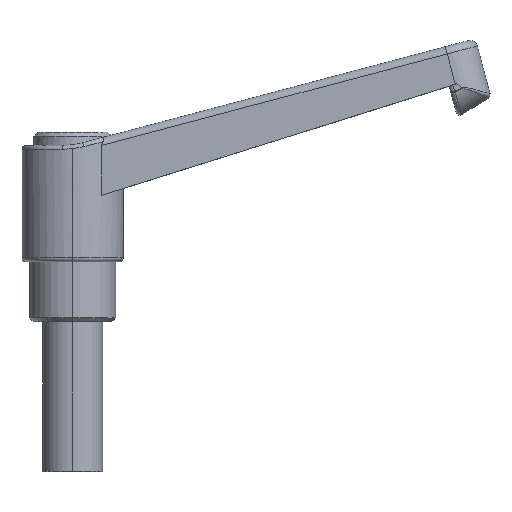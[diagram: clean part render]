
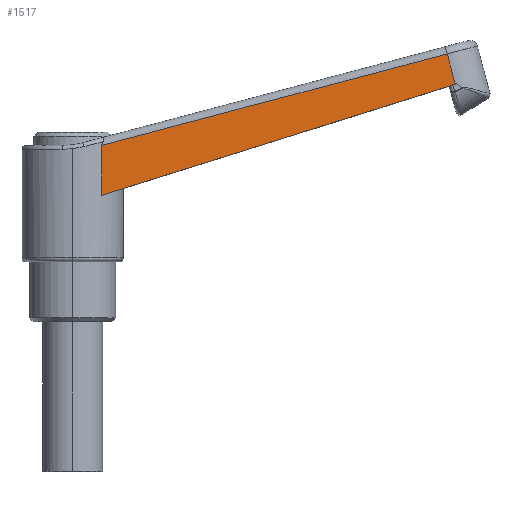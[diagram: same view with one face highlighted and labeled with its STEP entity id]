
A CAD part, top view. The second image highlights one B-rep face of the part: STEP entity #1517.
In plain terms, the highlighted planar face has unit normal (0.026, 0.007, 1).
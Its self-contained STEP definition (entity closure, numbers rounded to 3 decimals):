
#30 = VECTOR ( 'NONE', #371, 1000. ) ;
#61 = LINE ( 'NONE', #1318, #30 ) ;
#254 = AXIS2_PLACEMENT_3D ( 'NONE', #1220, #497, #1750 ) ;
#258 = CARTESIAN_POINT ( 'NONE',  ( 118.452, -45.186, 8.52 ) ) ;
#264 = CARTESIAN_POINT ( 'NONE',  ( 7.754, -0.013, 11.051 ) ) ;
#311 = PLANE ( 'NONE',  #254 ) ;
#324 = EDGE_CURVE ( 'NONE', #1058, #2329, #61, .T. ) ;
#371 = DIRECTION ( 'NONE',  ( -0.954, -0.299, 0.026 ) ) ;
#399 = VECTOR ( 'NONE', #1558, 1000. ) ;
#473 = CARTESIAN_POINT ( 'NONE',  ( 7.754, -0.013, 11.051 ) ) ;
#476 = CARTESIAN_POINT ( 'NONE',  ( 108.013, 26.567, 8.3 ) ) ;
#497 = DIRECTION ( 'NONE',  ( 0.026, 0.007, 1. ) ) ;
#505 = CARTESIAN_POINT ( 'NONE',  ( 102.138, 16.347, 8.52 ) ) ;
#518 = VECTOR ( 'NONE', #626, 1000. ) ;
#626 = DIRECTION ( 'NONE',  ( -0.256, 0.967, 0. ) ) ;
#717 = EDGE_LOOP ( 'NONE', ( #2209, #960, #1193, #1965 ) ) ;
#960 = ORIENTED_EDGE ( 'NONE', *, *, #2132, .T. ) ;
#980 = EDGE_CURVE ( 'NONE', #2329, #2425, #1351, .T. ) ;
#1011 = CARTESIAN_POINT ( 'NONE',  ( 7.663, -8.922, 11.114 ) ) ;
#1040 = FACE_OUTER_BOUND ( 'NONE', #717, .T. ) ;
#1058 = VERTEX_POINT ( 'NONE', #505 ) ;
#1150 = VERTEX_POINT ( 'NONE', #2385 ) ;
#1193 = ORIENTED_EDGE ( 'NONE', *, *, #980, .F. ) ;
#1220 = CARTESIAN_POINT ( 'NONE',  ( 110.063, 18.834, 8.3 ) ) ;
#1318 = CARTESIAN_POINT ( 'NONE',  ( 56.953, 2.167, 9.775 ) ) ;
#1335 = CARTESIAN_POINT ( 'NONE',  ( 7.618, -13.315, 11.145 ) ) ;
#1351 =( BOUNDED_CURVE ( )  B_SPLINE_CURVE ( 3, ( #1907, #1011, #1553, #473 ),
 .UNSPECIFIED., .F., .T. ) 
 B_SPLINE_CURVE_WITH_KNOTS ( ( 4, 4 ),
 ( 0.574, 0.586 ),
 .UNSPECIFIED. ) 
 CURVE ( )  GEOMETRIC_REPRESENTATION_ITEM ( )  RATIONAL_B_SPLINE_CURVE ( ( 1., 1., 1., 1. ) ) 
 REPRESENTATION_ITEM ( '' )  );
#1517 = ADVANCED_FACE ( 'NONE', ( #1040 ), #311, .T. ) ;
#1553 = CARTESIAN_POINT ( 'NONE',  ( 7.709, -4.489, 11.083 ) ) ;
#1558 = DIRECTION ( 'NONE',  ( -0.966, -0.256, 0.027 ) ) ;
#1750 = DIRECTION ( 'NONE',  ( -0.256, 0.967, 0. ) ) ;
#1907 = CARTESIAN_POINT ( 'NONE',  ( 7.618, -13.315, 11.145 ) ) ;
#1959 = LINE ( 'NONE', #258, #518 ) ;
#1965 = ORIENTED_EDGE ( 'NONE', *, *, #324, .F. ) ;
#1985 = EDGE_CURVE ( 'NONE', #1058, #1150, #1959, .T. ) ;
#2132 = EDGE_CURVE ( 'NONE', #1150, #2425, #2323, .T. ) ;
#2209 = ORIENTED_EDGE ( 'NONE', *, *, #1985, .T. ) ;
#2323 = LINE ( 'NONE', #476, #399 ) ;
#2329 = VERTEX_POINT ( 'NONE', #1335 ) ;
#2385 = CARTESIAN_POINT ( 'NONE',  ( 99.993, 24.441, 8.52 ) ) ;
#2425 = VERTEX_POINT ( 'NONE', #264 ) ;
